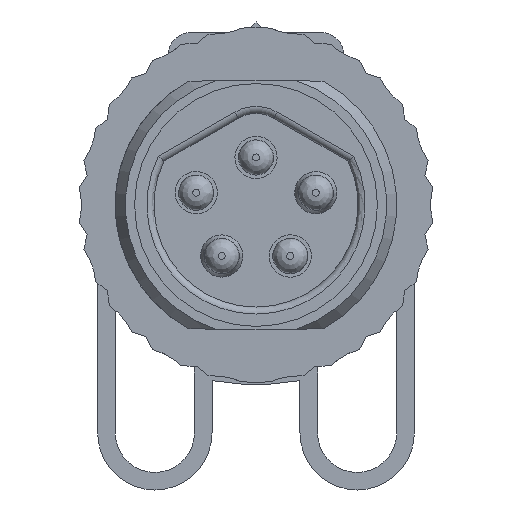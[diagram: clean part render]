
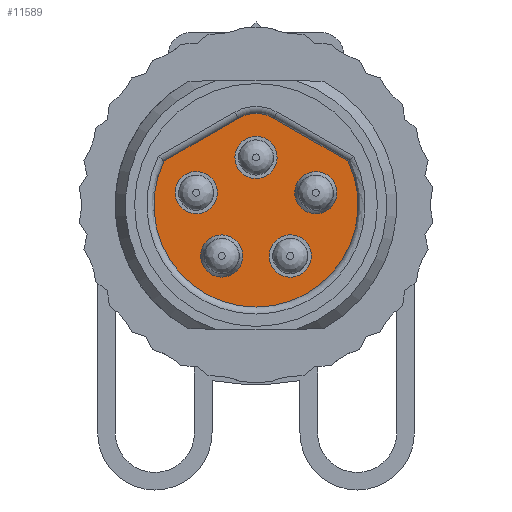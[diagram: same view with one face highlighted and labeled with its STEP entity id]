
A CAD part, front view. The second image highlights one B-rep face of the part: STEP entity #11589.
In plain terms, the highlighted planar face has unit normal (0, -1, 0).
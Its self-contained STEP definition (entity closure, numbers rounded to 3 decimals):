
#145=FACE_BOUND('',#1062,.T.);
#146=FACE_BOUND('',#1063,.T.);
#147=FACE_BOUND('',#1064,.T.);
#148=FACE_BOUND('',#1065,.T.);
#149=FACE_BOUND('',#1066,.T.);
#205=CIRCLE('',#12224,0.6);
#206=CIRCLE('',#12225,0.6);
#215=CIRCLE('',#12238,2.9);
#216=CIRCLE('',#12239,1.);
#217=CIRCLE('',#12240,0.6);
#218=CIRCLE('',#12241,0.6);
#219=CIRCLE('',#12242,0.6);
#220=CIRCLE('',#12243,0.6);
#221=CIRCLE('',#12244,0.6);
#222=CIRCLE('',#12245,0.6);
#223=CIRCLE('',#12246,0.6);
#224=CIRCLE('',#12247,0.6);
#475=FACE_OUTER_BOUND('',#1061,.T.);
#1061=EDGE_LOOP('',(#7386,#7387,#7388,#7389));
#1062=EDGE_LOOP('',(#7390,#7391));
#1063=EDGE_LOOP('',(#7392,#7393));
#1064=EDGE_LOOP('',(#7394,#7395));
#1065=EDGE_LOOP('',(#7396,#7397));
#1066=EDGE_LOOP('',(#7398,#7399));
#1700=LINE('',#16113,#3076);
#1701=LINE('',#16117,#3077);
#3076=VECTOR('',#13171,10.);
#3077=VECTOR('',#13174,10.);
#4452=VERTEX_POINT('',#16058);
#4453=VERTEX_POINT('',#16060);
#4461=VERTEX_POINT('',#16111);
#4462=VERTEX_POINT('',#16112);
#4463=VERTEX_POINT('',#16114);
#4464=VERTEX_POINT('',#16116);
#4465=VERTEX_POINT('',#16119);
#4466=VERTEX_POINT('',#16120);
#4467=VERTEX_POINT('',#16123);
#4468=VERTEX_POINT('',#16124);
#4469=VERTEX_POINT('',#16127);
#4470=VERTEX_POINT('',#16128);
#4471=VERTEX_POINT('',#16131);
#4472=VERTEX_POINT('',#16132);
#5597=EDGE_CURVE('',#4453,#4452,#205,.T.);
#5598=EDGE_CURVE('',#4452,#4453,#206,.T.);
#5609=EDGE_CURVE('',#4461,#4462,#1700,.T.);
#5610=EDGE_CURVE('',#4462,#4463,#215,.T.);
#5611=EDGE_CURVE('',#4463,#4464,#1701,.T.);
#5612=EDGE_CURVE('',#4464,#4461,#216,.T.);
#5613=EDGE_CURVE('',#4465,#4466,#217,.T.);
#5614=EDGE_CURVE('',#4466,#4465,#218,.T.);
#5615=EDGE_CURVE('',#4467,#4468,#219,.T.);
#5616=EDGE_CURVE('',#4468,#4467,#220,.T.);
#5617=EDGE_CURVE('',#4469,#4470,#221,.T.);
#5618=EDGE_CURVE('',#4470,#4469,#222,.T.);
#5619=EDGE_CURVE('',#4471,#4472,#223,.T.);
#5620=EDGE_CURVE('',#4472,#4471,#224,.T.);
#7386=ORIENTED_EDGE('',*,*,#5609,.T.);
#7387=ORIENTED_EDGE('',*,*,#5610,.T.);
#7388=ORIENTED_EDGE('',*,*,#5611,.T.);
#7389=ORIENTED_EDGE('',*,*,#5612,.T.);
#7390=ORIENTED_EDGE('',*,*,#5597,.T.);
#7391=ORIENTED_EDGE('',*,*,#5598,.T.);
#7392=ORIENTED_EDGE('',*,*,#5613,.F.);
#7393=ORIENTED_EDGE('',*,*,#5614,.F.);
#7394=ORIENTED_EDGE('',*,*,#5615,.F.);
#7395=ORIENTED_EDGE('',*,*,#5616,.F.);
#7396=ORIENTED_EDGE('',*,*,#5617,.F.);
#7397=ORIENTED_EDGE('',*,*,#5618,.F.);
#7398=ORIENTED_EDGE('',*,*,#5619,.F.);
#7399=ORIENTED_EDGE('',*,*,#5620,.F.);
#10504=PLANE('',#12237);
#11589=ADVANCED_FACE('',(#475,#145,#146,#147,#148,#149),#10504,.T.);
#12224=AXIS2_PLACEMENT_3D('',#16061,#13141,#13142);
#12225=AXIS2_PLACEMENT_3D('',#16062,#13143,#13144);
#12237=AXIS2_PLACEMENT_3D('',#16110,#13169,#13170);
#12238=AXIS2_PLACEMENT_3D('',#16115,#13172,#13173);
#12239=AXIS2_PLACEMENT_3D('',#16118,#13175,#13176);
#12240=AXIS2_PLACEMENT_3D('',#16121,#13177,#13178);
#12241=AXIS2_PLACEMENT_3D('',#16122,#13179,#13180);
#12242=AXIS2_PLACEMENT_3D('',#16125,#13181,#13182);
#12243=AXIS2_PLACEMENT_3D('',#16126,#13183,#13184);
#12244=AXIS2_PLACEMENT_3D('',#16129,#13185,#13186);
#12245=AXIS2_PLACEMENT_3D('',#16130,#13187,#13188);
#12246=AXIS2_PLACEMENT_3D('',#16133,#13189,#13190);
#12247=AXIS2_PLACEMENT_3D('',#16134,#13191,#13192);
#13141=DIRECTION('center_axis',(0.,1.,0.));
#13142=DIRECTION('ref_axis',(0.999,0.,-0.036));
#13143=DIRECTION('center_axis',(0.,1.,0.));
#13144=DIRECTION('ref_axis',(0.999,0.,-0.036));
#13169=DIRECTION('center_axis',(0.,-1.,0.));
#13170=DIRECTION('ref_axis',(0.,0.,
1.));
#13171=DIRECTION('',(-0.866,0.,-0.5));
#13172=DIRECTION('center_axis',(0.,-1.,0.));
#13173=DIRECTION('ref_axis',(-1.,0.,0.));
#13174=DIRECTION('',(-0.866,0.,0.5));
#13175=DIRECTION('center_axis',(0.,-1.,0.));
#13176=DIRECTION('ref_axis',(-0.5,0.,-0.866));
#13177=DIRECTION('center_axis',(0.,-1.,0.));
#13178=DIRECTION('ref_axis',(0.699,0.,0.715));
#13179=DIRECTION('center_axis',(0.,-1.,0.));
#13180=DIRECTION('ref_axis',(0.699,0.,0.715));
#13181=DIRECTION('center_axis',(0.,-1.,0.));
#13182=DIRECTION('ref_axis',(-0.842,0.,0.54));
#13183=DIRECTION('center_axis',(0.,-1.,0.));
#13184=DIRECTION('ref_axis',(-0.842,0.,0.54));
#13185=DIRECTION('center_axis',(0.,-1.,0.));
#13186=DIRECTION('ref_axis',(0.662,0.,-0.749));
#13187=DIRECTION('center_axis',(0.,-1.,0.));
#13188=DIRECTION('ref_axis',(0.662,0.,-0.749));
#13189=DIRECTION('center_axis',(0.,-1.,0.));
#13190=DIRECTION('ref_axis',(-0.742,0.,0.67));
#13191=DIRECTION('center_axis',(0.,-1.,0.));
#13192=DIRECTION('ref_axis',(-0.742,0.,0.67));
#16058=CARTESIAN_POINT('',(1.1,-9.6,0.372));
#16060=CARTESIAN_POINT('',(2.3,-9.6,0.328));
#16061=CARTESIAN_POINT('Origin',(1.7,-9.6,0.35));
#16062=CARTESIAN_POINT('Origin',(1.7,-9.6,0.35));
#16110=CARTESIAN_POINT('Origin',(-1.45,-9.6,0.));
#16111=CARTESIAN_POINT('',(-0.5,-9.6,2.466));
#16112=CARTESIAN_POINT('',(-2.621,-9.6,1.242));
#16113=CARTESIAN_POINT('',(-2.451,-9.6,1.34));
#16114=CARTESIAN_POINT('',(2.621,-9.6,1.242));
#16115=CARTESIAN_POINT('Origin',(0.,-9.6,
0.));
#16116=CARTESIAN_POINT('',(0.5,-9.6,2.466));
#16117=CARTESIAN_POINT('',(0.303,-9.6,2.58));
#16118=CARTESIAN_POINT('Origin',(0.,-9.6,
1.6));
#16119=CARTESIAN_POINT('',(1.395,-9.6,-1.021));
#16120=CARTESIAN_POINT('',(0.555,-9.6,-1.879));
#16121=CARTESIAN_POINT('Origin',(0.975,-9.6,-1.45));
#16122=CARTESIAN_POINT('Origin',(0.975,-9.6,-1.45));
#16123=CARTESIAN_POINT('',(-0.505,-9.6,1.674));
#16124=CARTESIAN_POINT('',(0.505,-9.6,1.026));
#16125=CARTESIAN_POINT('Origin',(0.,-9.6,
1.35));
#16126=CARTESIAN_POINT('Origin',(0.,-9.6,
1.35));
#16127=CARTESIAN_POINT('',(-1.303,-9.6,-0.1));
#16128=CARTESIAN_POINT('',(-2.097,-9.6,0.8));
#16129=CARTESIAN_POINT('Origin',(-1.7,-9.6,0.35));
#16130=CARTESIAN_POINT('Origin',(-1.7,-9.6,0.35));
#16131=CARTESIAN_POINT('',(-1.42,-9.6,-1.048));
#16132=CARTESIAN_POINT('',(-0.53,-9.6,-1.852));
#16133=CARTESIAN_POINT('Origin',(-0.975,-9.6,-1.45));
#16134=CARTESIAN_POINT('Origin',(-0.975,-9.6,-1.45));
